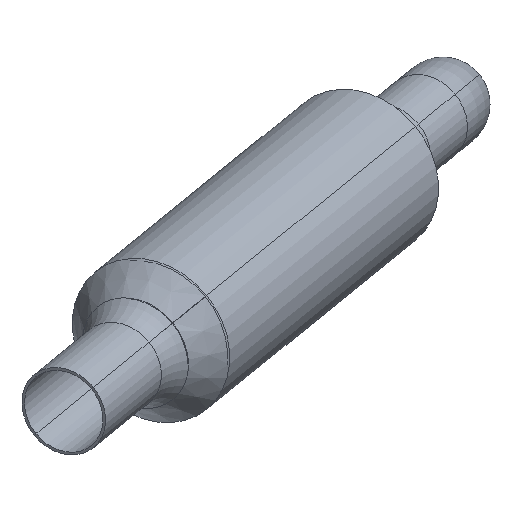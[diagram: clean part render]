
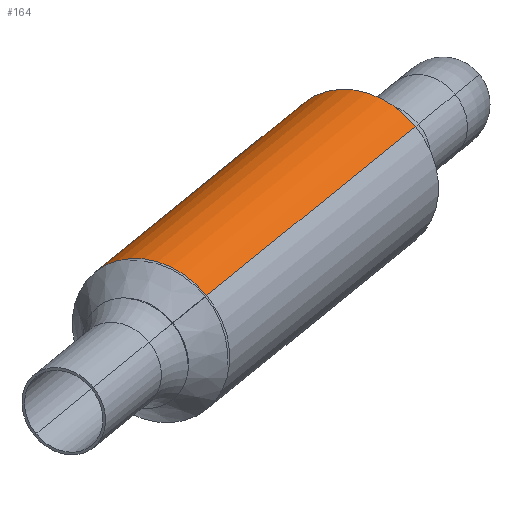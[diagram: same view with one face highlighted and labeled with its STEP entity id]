
A CAD part, left-side view. The second image highlights one B-rep face of the part: STEP entity #164.
In plain terms, the highlighted cylindrical face has radius 60.16 mm (diameter 120.32 mm), a partial arc.
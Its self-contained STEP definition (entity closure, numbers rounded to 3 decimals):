
#164=ADVANCED_FACE('0:88',(#323),#324,.T.);
#323=FACE_OUTER_BOUND('',#799,.T.);
#324=CYLINDRICAL_SURFACE('',#800,60.16);
#799=EDGE_LOOP('',(#1174,#1175,#1176,#1177));
#800=AXIS2_PLACEMENT_3D('',#1178,#1179,#1180);
#1174=ORIENTED_EDGE('',*,*,#1403,.T.);
#1175=ORIENTED_EDGE('',*,*,#1352,.F.);
#1176=ORIENTED_EDGE('',*,*,#1404,.T.);
#1177=ORIENTED_EDGE('',*,*,#1394,.F.);
#1178=CARTESIAN_POINT('',(-75.698,-393.155,-238.374));
#1179=DIRECTION('',(0.809,-0.457,0.37));
#1180=DIRECTION('',(0.588,0.629,-0.509));
#1352=EDGE_CURVE('0:364',#1539,#1537,#1541,.T.);
#1394=EDGE_CURVE('',#1586,#1588,#1589,.T.);
#1403=EDGE_CURVE('',#1586,#1537,#1598,.T.);
#1404=EDGE_CURVE('',#1539,#1588,#1599,.T.);
#1537=VERTEX_POINT('',#1820);
#1539=VERTEX_POINT('',#1823);
#1541=CIRCLE('',#1826,60.16);
#1586=VERTEX_POINT('',#1879);
#1588=VERTEX_POINT('',#1882);
#1589=CIRCLE('',#1883,60.16);
#1598=LINE('',#1899,#1900);
#1599=LINE('',#1901,#1902);
#1820=CARTESIAN_POINT('',(-138.066,-300.15,-313.687));
#1823=CARTESIAN_POINT('',(-208.788,-375.799,-252.429));
#1826=AXIS2_PLACEMENT_3D('',#2043,#2044,#2045);
#1879=CARTESIAN_POINT('',(113.441,-442.159,-198.691));
#1882=CARTESIAN_POINT('',(42.719,-517.807,-137.433));
#1883=AXIS2_PLACEMENT_3D('',#2106,#2107,#2108);
#1899=CARTESIAN_POINT('',(-40.337,-355.331,-269.003));
#1900=VECTOR('',#2116,1.0);
#1901=CARTESIAN_POINT('',(-111.059,-430.979,-207.744));
#1902=VECTOR('',#2117,1.0);
#2043=CARTESIAN_POINT('',(-173.427,-337.974,-283.058));
#2044=DIRECTION('',(-0.809,0.457,-0.37));
#2045=DIRECTION('',(0.588,0.629,-0.509));
#2106=CARTESIAN_POINT('',(78.08,-479.983,-168.062));
#2107=DIRECTION('',(0.809,-0.457,0.37));
#2108=DIRECTION('',(0.588,0.629,-0.509));
#2116=DIRECTION('',(-0.809,0.457,-0.37));
#2117=DIRECTION('',(0.809,-0.457,0.37));
